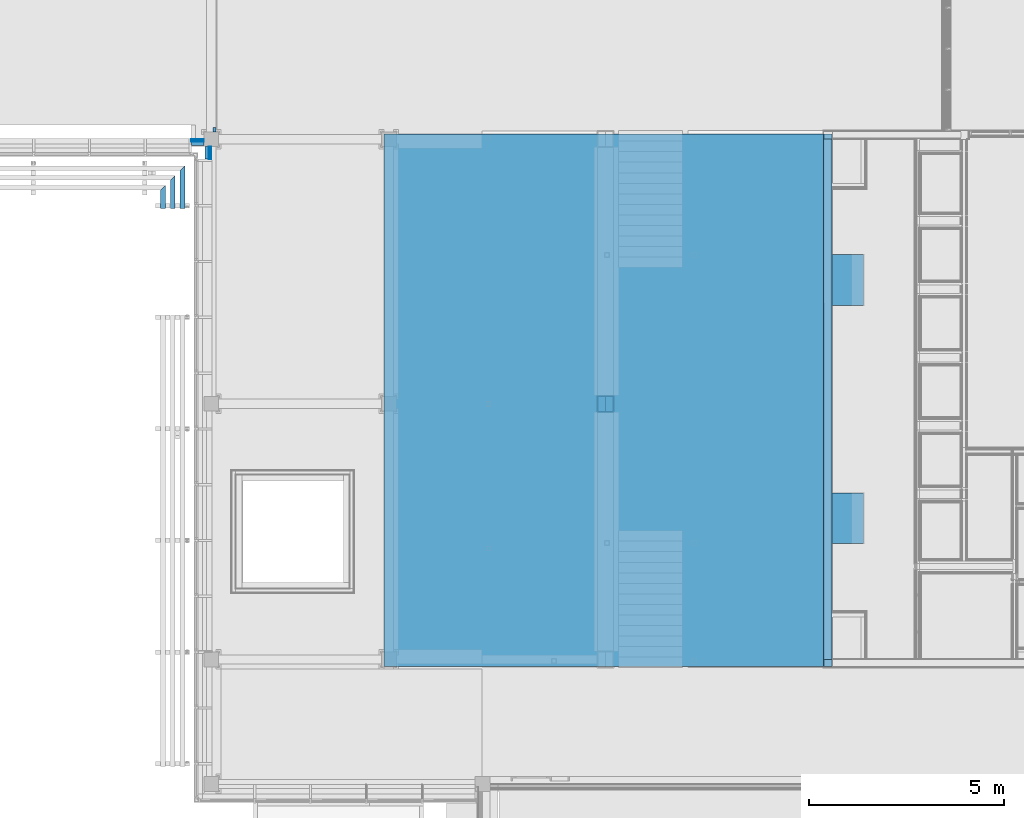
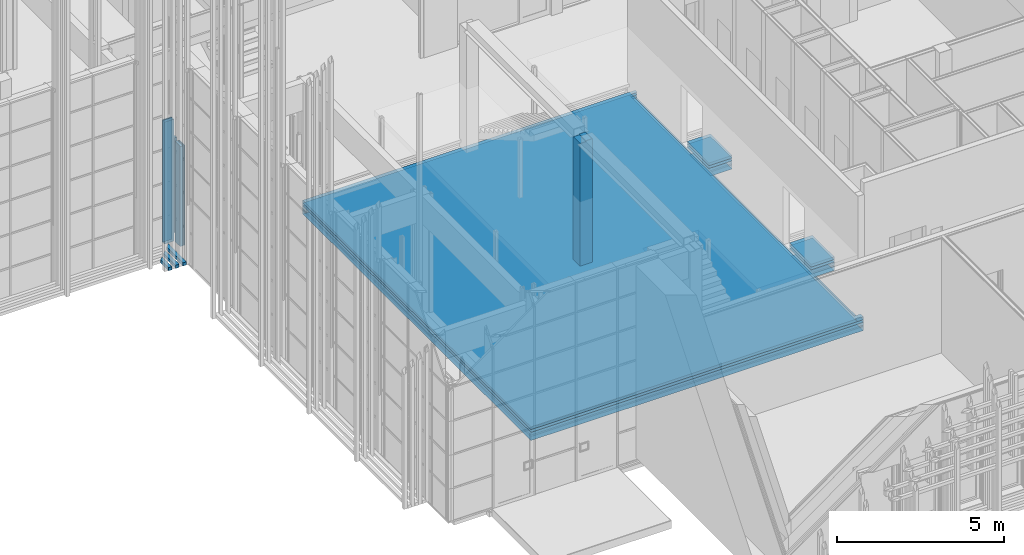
# One storey, part 142 of 260: 20 building element parts, 2 discrete accessories, 4 elements without a shape of their own.
"""IFC2X3 building model written with IfcOpenShell, lengths in millimetres."""

from ifc_helpers import new_model, entity, si_unit, converted_unit, derived_unit, money_unit, direction, frame, origin_with_axes, place, context, subcontext, project, spatial, faceted_brep, material, material_list, type_object, element, aggregate, save


model = new_model("IFC2X3")

# Units and contexts
model_context = context("Model", 3, precision=0.01, world=origin_with_axes(), true_north=direction((0.0, 1.0)))
body_context = subcontext(model_context, "Body", "Model", "MODEL_VIEW")
ifc_project = project(units=[si_unit("LENGTHUNIT", "METRE", prefix="MILLI"), si_unit("AREAUNIT", "SQUARE_METRE"), si_unit("VOLUMEUNIT", "CUBIC_METRE"), converted_unit("PLANEANGLEUNIT", "DEGREE", entity("IfcPlaneAngleMeasure", 0.0174532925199), si_unit("PLANEANGLEUNIT", "RADIAN"), dimensions=[0, 0, 0, 0, 0, 0, 0]), money_unit("EUR"), converted_unit("TIMEUNIT", "Year", entity("IfcTimeMeasure", 31556926.0), si_unit("TIMEUNIT", "SECOND"), dimensions=[0, 0, 1, 0, 0, 0, 0]), si_unit("MASSUNIT", "GRAM", prefix="KILO"), si_unit("THERMODYNAMICTEMPERATUREUNIT", "DEGREE_CELSIUS"), si_unit("LUMINOUSINTENSITYUNIT", "LUMEN"), si_unit("ENERGYUNIT", "JOULE", prefix="MEGA"), derived_unit("THERMALCONDUCTANCEUNIT", [(si_unit("POWERUNIT", "WATT"), 1), (si_unit("LENGTHUNIT", "METRE"), -1), (si_unit("THERMODYNAMICTEMPERATUREUNIT", "KELVIN"), -1)]), derived_unit("SPECIFICHEATCAPACITYUNIT", [(si_unit("ENERGYUNIT", "JOULE"), 1), (si_unit("MASSUNIT", "GRAM", prefix="KILO"), -1), (si_unit("THERMODYNAMICTEMPERATUREUNIT", "KELVIN"), -1)]), derived_unit("MASSDENSITYUNIT", [(si_unit("MASSUNIT", "GRAM", prefix="KILO"), 1), (si_unit("VOLUMEUNIT", "CUBIC_METRE"), -1)])], contexts=[model_context])

# Site, building, storey
site_placement = place(None, origin_with_axes())
site = spatial("IfcSite", under=ifc_project, at=site_placement, Name="Kolde pst 67a", CompositionType="ELEMENT")
building_placement = place(site_placement, origin_with_axes())
building = spatial("IfcBuilding", under=site, at=building_placement, Name="Riigigümnaasium", CompositionType="ELEMENT")
storey_placement = place(building_placement, origin_with_axes())
storey = spatial("IfcBuildingStorey", under=building, at=storey_placement, Name="1. korrus", CompositionType="ELEMENT", Elevation=0.0)

# Discrete accessories
ifc_material_1 = material(Name="_VÄLISVIIMISTLUS - sõrmjätkatud puitprussid 120x115mm, liitekohad vähemärgatavad, Platowood sõrmjätkatud kuusk või samaväärne; eeltöödeldud tuletõkkevõõbaga, tuletundlikkus B-s1, d0, Woodsafe Exterior WFX™ või samaväärne; kinnitused vastavalt EK osale")
ifc_material_list = material_list([ifc_material_1, ifc_material_1, ifc_material_1])
discrete_accessory_type_1 = type_object("IfcDiscreteAccessoryType", Name="120 1+paiksekaitse 3 tk  620 x 115")
discrete_accessory_1_placement = place(storey_placement, frame((47674.9160471, 23674.9995959, 352.5), z_axis=(0.0, 0.0, 1.0), x_axis=(-0.999999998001, -6.32316306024e-05, 0.0)))
element("IfcDiscreteAccessory", 1, at=discrete_accessory_1_placement, inside=storey, type_object=discrete_accessory_type_1, material=ifc_material_list, Name="Päikesevarjestus", context=body_context, shape_type="Brep", body=[
    faceted_brep([(625.0, 1217.76648665, 45.0), (625.0, 624.96048148, 45.0), (745.0, 744.952893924, 45.0), (745.0, 1217.76648665, 45.0), (625.0, 1217.76648665, -70.0), (625.0, 624.96048148, -70.0), (745.0, 744.952893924, -70.0), (745.0, 1217.76648665, -70.0)], [[[0, 1, 2, 3]], [[4, 5, 1, 0]], [[5, 6, 2, 1]], [[3, 2, 6, 7]], [[4, 0, 3, 7]], [[7, 6, 5, 4]]]),
    faceted_brep([(375.0, 1217.76648665, 45.0), (375.0, 374.976288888, 45.0), (495.0, 494.968701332, 45.0), (495.0, 1217.76648665, 45.0), (375.0, 1217.76648665, -70.0), (375.0, 374.976288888, -70.0), (495.0, 494.968701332, -70.0), (495.0, 1217.76648665, -70.0)], [[[0, 1, 2, 3]], [[4, 5, 1, 0]], [[5, 6, 2, 1]], [[3, 2, 6, 7]], [[4, 0, 3, 7]], [[7, 6, 5, 4]]]),
    faceted_brep([(125.0, 1217.76648665, 45.0), (125.0, 124.992096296, 45.0), (245.0, 244.98450874, 45.0), (245.0, 1217.76648665, 45.0), (125.0, 1217.76648665, -70.0), (125.0, 124.992096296, -70.0), (245.0, 244.98450874, -70.0), (245.0, 1217.76648665, -70.0)], [[[0, 1, 2, 3]], [[4, 5, 1, 0]], [[5, 6, 2, 1]], [[3, 2, 6, 7]], [[4, 0, 3, 7]], [[7, 6, 5, 4]]]),
])
ifc_material_2 = material(Name="_METALL - teras")
discrete_accessory_type_2 = type_object("IfcDiscreteAccessoryType", Name="_METALL - teras 74 x 105")
discrete_accessory_2_placement = place(storey_placement, frame((48312.9854607, 24472.4965341, 0.0), z_axis=(0.0, 0.0, 1.0), x_axis=(-1.0, 0.0, 0.0)))
element("IfcDiscreteAccessory", 2, at=discrete_accessory_2_placement, inside=storey, type_object=discrete_accessory_type_2, material=ifc_material_2, Name="Tuletõkke kardin", context=body_context, shape_type="Brep", body=[
    faceted_brep([(37.0, 52.5, 3470.0), (37.0, 52.5, 0.0), (-37.0, 52.5, 0.0), (-37.0, 52.5, 3470.0), (37.0, -52.5, 3470.0), (37.0, -52.5, 0.0), (-37.0, -52.5, 0.0), (-37.0, -52.5, 3470.0)], [[[0, 1, 2, 3]], [[4, 5, 1, 0]], [[2, 1, 5, 6]], [[3, 2, 6, 7]], [[4, 0, 3, 7]], [[7, 6, 5, 4]]]),
])

# Column, building element parts
column_type = type_object("IfcColumnType", Name="_KANDETARIND - raudbetoon C25/30 vastavalt EK osale 420 x 420", PredefinedType="COLUMN")
column_placement = place(storey_placement, frame((58329.9488767, 17449.9999742, -300.0), z_axis=(0.0, 0.0, 1.0), x_axis=(1.0, 0.0, 0.0)))
column = element("IfcColumn", 3, at=column_placement, inside=storey, type_object=column_type, Name="POST", ObjectType="COLUMN")
ifc_material_3 = material(Name="_VIIMISTLUSKIHT - puit")
building_element_part_1_placement = place(column_placement, origin_with_axes())
building_element_part_1 = element("IfcBuildingElementPart", 4, at=building_element_part_1_placement, material=ifc_material_3, Name="_VIIMISTLUSKIHT - puit", context=body_context, shape_type="Brep", body=[
    faceted_brep([(-210.0, 210.0, 4470.0), (0.0, 210.0, 4470.0), (3.24129629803e-05, 210.0, 4500.0), (210.0, 210.0, 4500.0), (210.0, 210.0, 0.0), (-210.0, 210.0, 0.0), (-210.0, -210.0, 4470.0), (0.0, -210.0, 4470.0), (0.0, -199.999997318, 4470.0), (-199.999997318, -199.999997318, 4470.0), (-199.999997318, 199.999997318, 4470.0), (0.0, 199.999997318, 4470.0), (3.23664650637e-05, 199.999997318, 4500.0), (3.05063352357e-05, -199.999997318, 4500.0), (3.04598231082e-05, -210.0, 4500.0), (210.0, -210.0, 4500.0), (199.999997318, 199.999997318, 4500.0), (199.999997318, -199.999997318, 4500.0), (210.0, -210.0, 0.0), (-210.0, -210.0, 0.0), (-199.999997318, 199.999997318, 0.0), (-199.999997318, -199.999997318, 0.0), (199.999997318, -199.999997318, 0.0), (199.999997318, 199.999997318, 0.0)], [[[0, 1, 2, 3, 4, 5]], [[1, 0, 6, 7, 8, 9, 10, 11]], [[12, 2, 1, 11]], [[13, 14, 15, 3, 2, 12, 16, 17]], [[15, 18, 4, 3]], [[19, 5, 4, 18], [20, 21, 22, 23]], [[6, 0, 5, 19]], [[7, 6, 19, 18, 15, 14]], [[14, 13, 8, 7]], [[8, 13, 17, 22, 21, 9]], [[10, 9, 21, 20]], [[11, 10, 20, 23, 16, 12]], [[16, 23, 22, 17]]]),
])
ifc_material_4 = material(Name="_KANDETARIND - raudbetoon C25/30 vastavalt EK osale")
building_element_part_2_placement = place(column_placement, origin_with_axes())
building_element_part_2 = element("IfcBuildingElementPart", 5, at=building_element_part_2_placement, material=ifc_material_4, Name="_KANDETARIND - raudbetoon C25/30 vastavalt EK osale", context=body_context, shape_type="Brep", body=[
    faceted_brep([(-200.0, 200.0, 4470.0), (0.0, 200.0, 4470.0), (3.23664650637e-05, 200.0, 4500.0), (200.0, 200.0, 4500.0), (200.0, 200.0, 0.0), (-200.0, 200.0, 0.0), (-200.0, -200.0, 4470.0), (0.0, -200.0, 4470.0), (3.05063352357e-05, -200.0, 4500.0), (200.0, -200.0, 4500.0), (200.0, -200.0, 0.0), (-200.0, -200.0, 0.0)], [[[0, 1, 2, 3, 4, 5]], [[1, 0, 6, 7]], [[8, 2, 1, 7]], [[2, 8, 9, 3]], [[9, 10, 4, 3]], [[10, 11, 5, 4]], [[6, 0, 5, 11]], [[7, 6, 11, 10, 9, 8]]]),
])
aggregate(column, [building_element_part_1, building_element_part_2])

# Slab, building element parts
slab_type = type_object("IfcSlabType", Name="PP-RBM-10/1_EPS 200 500", PredefinedType="NOTDEFINED")
slab_placement = place(storey_placement, frame((64129.5378572, 24360.3020039, -300.0), z_axis=(0.0, 0.0, 1.0), x_axis=(1.0, 0.0, 0.0)))
slab = element("IfcSlab", 6, at=slab_placement, inside=storey, type_object=slab_type, Name="Põrand pinnasel", PredefinedType="NOTDEFINED")
ifc_material_5 = material(Name="_PEALEVALUKIHT - raudbetoonplaat vastavalt EK osale, vajadusel põrandküte")
building_element_part_3_placement = place(slab_placement, origin_with_axes())
building_element_part_3 = element("IfcBuildingElementPart", 7, at=building_element_part_3_placement, material=ifc_material_5, Name="_PEALEVALUKIHT - raudbetoonplaat vastavalt EK osale, vajadusel põrandküte", context=body_context, shape_type="Brep", body=[
    faceted_brep([(-209.588296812, -13635.2990086, -100.0), (-209.588296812, -13635.2990086, 0.0), (-11469.543754, -13635.2990086, 0.0), (-11469.543754, -13635.2990086, -100.0), (-209.682895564, -10490.3466835, 0.0), (-209.998440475, 0.0, -100.0), (-209.998440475, 0.0, 0.0), (-209.905485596, -3090.30146363, 0.0), (-209.86638347, -4390.25861855, 0.0), (-209.721998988, -9190.34638203, 0.0), (-11469.543754, 0.0, 0.0), (-11469.543754, 0.0, -100.0)], [[[0, 1, 2, 3]], [[4, 1, 0, 5, 6, 7, 8, 9]], [[7, 6, 10, 2, 1, 4, 9, 8]], [[2, 10, 11, 3]], [[5, 0, 3, 11]], [[6, 5, 11, 10]]]),
    faceted_brep([(0.0, -13460.3400753, -100.0), (0.0, -13460.3400753, 0.0), (0.0, -13635.2990086, 0.0), (0.0, -13635.2990086, -100.0), (-199.593559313, -13460.346079, 0.0), (-199.593559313, -13460.346079, -100.0), (-199.588296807, -13635.2990086, 0.0), (-199.588296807, -13635.2990086, -100.0)], [[[0, 1, 2, 3]], [[4, 1, 0, 5]], [[1, 4, 6, 2]], [[2, 6, 7, 3]], [[5, 0, 3, 7]], [[4, 5, 7, 6]]]),
    faceted_brep([(-199.994821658, -120.30804703, 0.0), (0.0051782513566, -120.30203112, 0.0), (0.0, 0.0, 0.0), (-199.99844047, 0.0, 0.0), (0.0051782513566, -120.30203112, -100.0), (-199.994821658, -120.30804703, -100.0), (0.0, 0.0, -100.0), (-199.99844047, 0.0, -100.0)], [[[0, 1, 2, 3]], [[4, 1, 0, 5]], [[1, 4, 6, 2]], [[6, 7, 3, 2]], [[5, 0, 3, 7]], [[4, 5, 7, 6]]]),
    faceted_brep([(10.0945143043, -3090.29484613, 0.0), (10.1336164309, -4390.25200105, 0.0), (810.356886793, -4390.22784409, 0.0), (810.317680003, -3090.27069554, 0.0), (10.1336164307, -4390.25199374, -100.0), (10.0945143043, -3090.29484617, -100.0), (810.356886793, -4390.22784409, -100.0), (810.317680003, -3090.27069554, -100.0)], [[[0, 1, 2, 3]], [[4, 1, 0, 5]], [[1, 4, 6, 2]], [[6, 7, 3, 2]], [[5, 0, 3, 7]], [[4, 5, 7, 6]]]),
    faceted_brep([(10.2780009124, -9190.33976453, 0.0), (10.3171043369, -10490.340066, 0.0), (810.450246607, -10490.3159238, 0.0), (810.411038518, -9190.31567706, 0.0), (10.3171043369, -10490.340066, -100.0), (10.2780009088, -9190.33964401, -100.0), (810.450246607, -10490.3159238, -100.0), (810.411038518, -9190.31567706, -100.0)], [[[0, 1, 2, 3]], [[4, 1, 0, 5]], [[1, 4, 6, 2]], [[6, 7, 3, 2]], [[5, 0, 3, 7]], [[4, 5, 7, 6]]]),
])
ifc_material_6 = material(Name="_ERALDUSKIHT - polüetüleenkile 0,2mm, vuugid ülekattega 200mm ja teibitud")
building_element_part_4_placement = place(slab_placement, origin_with_axes())
building_element_part_4 = element("IfcBuildingElementPart", 8, at=building_element_part_4_placement, material=ifc_material_6, Name="_ERALDUSKIHT - polüetüleenkile 0,2mm, vuugid ülekattega 200mm ja teibitud", context=body_context, shape_type="Brep", body=[
    faceted_brep([(-209.588296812, -13635.2990086, -100.1), (-209.588296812, -13635.2990086, -100.0), (-11469.543754, -13635.2990086, -100.0), (-11469.543754, -13635.2990086, -100.1), (-209.998440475, 0.0, -100.0), (-209.998440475, 0.0, -100.1), (-11469.543754, 0.0, -100.0), (-11469.543754, 0.0, -100.1)], [[[0, 1, 2, 3]], [[4, 1, 0, 5]], [[1, 4, 6, 2]], [[2, 6, 7, 3]], [[5, 0, 3, 7]], [[4, 5, 7, 6]]]),
    faceted_brep([(0.0, -13460.3400753, -100.1), (0.0, -13460.3400753, -100.0), (0.0, -13635.2990086, -100.0), (0.0, -13635.2990086, -100.1), (-199.593559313, -13460.346079, -100.0), (-199.593559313, -13460.346079, -100.1), (-199.588296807, -13635.2990086, -100.0), (-199.588296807, -13635.2990086, -100.1)], [[[0, 1, 2, 3]], [[4, 1, 0, 5]], [[1, 4, 6, 2]], [[2, 6, 7, 3]], [[5, 0, 3, 7]], [[4, 5, 7, 6]]]),
    faceted_brep([(-199.994821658, -120.30804703, -100.0), (0.0051782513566, -120.30203112, -100.0), (0.0, 0.0, -100.0), (-199.99844047, 0.0, -100.0), (0.0051782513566, -120.30203112, -100.1), (-199.994821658, -120.30804703, -100.1), (0.0, 0.0, -100.1), (-199.99844047, 0.0, -100.1)], [[[0, 1, 2, 3]], [[4, 1, 0, 5]], [[1, 4, 6, 2]], [[6, 7, 3, 2]], [[5, 0, 3, 7]], [[4, 5, 7, 6]]]),
    faceted_brep([(10.0945143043, -3090.29484617, -100.0), (10.1336164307, -4390.25199374, -100.0), (810.356886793, -4390.22784409, -100.0), (810.317680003, -3090.27069554, -100.0), (10.1336164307, -4390.25199374, -100.1), (10.0945143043, -3090.29484617, -100.1), (810.356886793, -4390.22784409, -100.1), (810.317680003, -3090.27069554, -100.1)], [[[0, 1, 2, 3]], [[4, 1, 0, 5]], [[1, 4, 6, 2]], [[6, 7, 3, 2]], [[5, 0, 3, 7]], [[4, 5, 7, 6]]]),
    faceted_brep([(10.2780009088, -9190.33964401, -100.0), (10.3171043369, -10490.340066, -100.0), (810.450246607, -10490.3159238, -100.0), (810.411038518, -9190.31567706, -100.0), (10.3171043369, -10490.340066, -100.1), (10.2780009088, -9190.33964401, -100.1), (810.450246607, -10490.3159238, -100.1), (810.411038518, -9190.31567706, -100.1)], [[[0, 1, 2, 3]], [[4, 1, 0, 5]], [[1, 4, 6, 2]], [[6, 7, 3, 2]], [[5, 0, 3, 7]], [[4, 5, 7, 6]]]),
])
ifc_material_7 = material(Name="_SOOJUSTUS - vahtpolüstüreenplaadid EPS 120 Perimeeter, survetugevus min 120kPa, veeimavus <2%, soojuserijuhtivus λD<0,036 W/(mK)")
building_element_part_5_placement = place(slab_placement, origin_with_axes())
building_element_part_5 = element("IfcBuildingElementPart", 9, at=building_element_part_5_placement, material=ifc_material_7, Name="_SOOJUSTUS - vahtpolüstüreenplaadid EPS 120 Perimeeter, survetugevus min 120kPa, veeimavus <2%, soojuserijuhtivus λD<0,036 W/(mK)", context=body_context, shape_type="Brep", body=[
    faceted_brep([(-209.588296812, -13635.2990086, -200.1), (-209.588296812, -13635.2990086, -100.1), (-11469.543754, -13635.2990086, -100.1), (-11469.543754, -13635.2990086, -200.1), (-209.998440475, 0.0, -100.1), (-209.998440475, 0.0, -200.1), (-11469.543754, 0.0, -100.1), (-11469.543754, 0.0, -200.1)], [[[0, 1, 2, 3]], [[4, 1, 0, 5]], [[1, 4, 6, 2]], [[2, 6, 7, 3]], [[5, 0, 3, 7]], [[4, 5, 7, 6]]]),
    faceted_brep([(0.0, -13460.3400753, -200.1), (0.0, -13460.3400753, -100.1), (0.0, -13635.2990086, -100.1), (0.0, -13635.2990086, -200.1), (-199.593559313, -13460.346079, -100.1), (-199.593559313, -13460.346079, -200.1), (-199.588296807, -13635.2990086, -100.1), (-199.588296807, -13635.2990086, -200.1)], [[[0, 1, 2, 3]], [[4, 1, 0, 5]], [[1, 4, 6, 2]], [[2, 6, 7, 3]], [[5, 0, 3, 7]], [[4, 5, 7, 6]]]),
    faceted_brep([(-199.994821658, -120.30804703, -100.1), (0.0051782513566, -120.30203112, -100.1), (0.0, 0.0, -100.1), (-199.99844047, 0.0, -100.1), (0.0051782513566, -120.30203112, -200.1), (-199.994821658, -120.30804703, -200.1), (0.0, 0.0, -200.1), (-199.99844047, 0.0, -200.1)], [[[0, 1, 2, 3]], [[4, 1, 0, 5]], [[1, 4, 6, 2]], [[6, 7, 3, 2]], [[5, 0, 3, 7]], [[4, 5, 7, 6]]]),
    faceted_brep([(10.0945143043, -3090.29484617, -100.1), (10.1336164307, -4390.25199374, -100.1), (810.356886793, -4390.22784409, -100.1), (810.317680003, -3090.27069554, -100.1), (10.1336164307, -4390.25199374, -200.1), (10.0945143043, -3090.29484617, -200.1), (810.356886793, -4390.22784409, -200.1), (810.317680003, -3090.27069554, -200.1)], [[[0, 1, 2, 3]], [[4, 1, 0, 5]], [[1, 4, 6, 2]], [[6, 7, 3, 2]], [[5, 0, 3, 7]], [[4, 5, 7, 6]]]),
    faceted_brep([(10.2780009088, -9190.33964401, -100.1), (10.3171043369, -10490.340066, -100.1), (810.450246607, -10490.3159238, -100.1), (810.411038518, -9190.31567706, -100.1), (10.3171043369, -10490.340066, -200.1), (10.2780009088, -9190.33964401, -200.1), (810.450246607, -10490.3159238, -200.1), (810.411038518, -9190.31567706, -200.1)], [[[0, 1, 2, 3]], [[4, 1, 0, 5]], [[1, 4, 6, 2]], [[6, 7, 3, 2]], [[5, 0, 3, 7]], [[4, 5, 7, 6]]]),
])
ifc_material_8 = material(Name="_ERALDUSKIHT - radoonitõkkekile/-membraan LEKU 280g/m² või samaväärne")
building_element_part_6_placement = place(slab_placement, origin_with_axes())
building_element_part_6 = element("IfcBuildingElementPart", 10, at=building_element_part_6_placement, material=ifc_material_8, Name="_ERALDUSKIHT - radoonitõkkekile/-membraan LEKU 280g/m² või samaväärne", context=body_context, shape_type="Brep", body=[
    faceted_brep([(-209.588296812, -13635.2990086, -200.2), (-209.588296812, -13635.2990086, -200.1), (-11469.543754, -13635.2990086, -200.1), (-11469.543754, -13635.2990086, -200.2), (-209.998440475, 0.0, -200.1), (-209.998440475, 0.0, -200.2), (-11469.543754, 0.0, -200.1), (-11469.543754, 0.0, -200.2)], [[[0, 1, 2, 3]], [[4, 1, 0, 5]], [[1, 4, 6, 2]], [[2, 6, 7, 3]], [[5, 0, 3, 7]], [[4, 5, 7, 6]]]),
    faceted_brep([(0.0, -13460.3400753, -200.2), (0.0, -13460.3400753, -200.1), (0.0, -13635.2990086, -200.1), (0.0, -13635.2990086, -200.2), (-199.593559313, -13460.346079, -200.1), (-199.593559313, -13460.346079, -200.2), (-199.588296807, -13635.2990086, -200.1), (-199.588296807, -13635.2990086, -200.2)], [[[0, 1, 2, 3]], [[4, 1, 0, 5]], [[1, 4, 6, 2]], [[2, 6, 7, 3]], [[5, 0, 3, 7]], [[4, 5, 7, 6]]]),
    faceted_brep([(-199.994821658, -120.30804703, -200.1), (0.0051782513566, -120.30203112, -200.1), (0.0, 0.0, -200.1), (-199.99844047, 0.0, -200.1), (0.0051782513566, -120.30203112, -200.2), (-199.994821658, -120.30804703, -200.2), (0.0, 0.0, -200.2), (-199.99844047, 0.0, -200.2)], [[[0, 1, 2, 3]], [[4, 1, 0, 5]], [[1, 4, 6, 2]], [[6, 7, 3, 2]], [[5, 0, 3, 7]], [[4, 5, 7, 6]]]),
    faceted_brep([(10.0945143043, -3090.29484617, -200.1), (10.1336164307, -4390.25199374, -200.1), (810.356886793, -4390.22784409, -200.1), (810.317680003, -3090.27069554, -200.1), (10.1336164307, -4390.25199374, -200.2), (10.0945143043, -3090.29484617, -200.2), (810.356886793, -4390.22784409, -200.2), (810.317680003, -3090.27069554, -200.2)], [[[0, 1, 2, 3]], [[4, 1, 0, 5]], [[1, 4, 6, 2]], [[6, 7, 3, 2]], [[5, 0, 3, 7]], [[4, 5, 7, 6]]]),
    faceted_brep([(10.2780009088, -9190.33964401, -200.1), (10.3171043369, -10490.340066, -200.1), (810.450246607, -10490.3159238, -200.1), (810.411038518, -9190.31567706, -200.1), (10.3171043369, -10490.340066, -200.2), (10.2780009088, -9190.33964401, -200.2), (810.450246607, -10490.3159238, -200.2), (810.411038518, -9190.31567706, -200.2)], [[[0, 1, 2, 3]], [[4, 1, 0, 5]], [[1, 4, 6, 2]], [[6, 7, 3, 2]], [[5, 0, 3, 7]], [[4, 5, 7, 6]]]),
])
building_element_part_7_placement = place(slab_placement, origin_with_axes())
building_element_part_7 = element("IfcBuildingElementPart", 11, at=building_element_part_7_placement, material=ifc_material_7, Name="_SOOJUSTUS - vahtpolüstüreenplaadid EPS 120 Perimeeter, survetugevus min 120kPa, veeimavus <2%, soojuserijuhtivus λD<0,036 W/(mK)", context=body_context, shape_type="Brep", body=[
    faceted_brep([(0.0945143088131, -3090.29514797, -220.0), (10.0945143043, -3090.29484623, -220.0), (10.0945143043, -3090.29484617, -200.2), (810.317680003, -3090.27069554, -200.2), (810.317680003, -3090.27069554, -300.2), (0.0, -3090.29515081, -300.2), (10.3171043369, -10490.340066, -220.0), (10.2780009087, -9190.33964176, -220.0), (0.0, -9190.33995188, -220.0), (0.0, -4390.25229955, -220.0), (10.1336164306, -4390.25198901, -220.0), (0.0051782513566, -120.30203112, -220.0), (-199.994821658, -120.30804703, -220.0), (-199.99844047, 0.0, -220.0), (-209.998440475, 0.0, -220.0), (-209.588296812, -13635.2990086, -220.0), (-199.588296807, -13635.2990086, -220.0), (-199.593559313, -13460.346079, -220.0), (0.0, -13460.3400753, -220.0), (0.0, -10490.3403773, -220.0), (10.1336164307, -4390.25199374, -200.2), (810.356886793, -4390.22784409, -200.2), (810.356886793, -4390.22784409, -300.2), (810.450246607, -10490.3159238, -300.2), (0.0, -10490.3403773, -300.2), (0.0, -13635.2990086, -300.2), (-11469.543754, -13635.2990086, -300.2), (-11469.543754, 0.0, -300.2), (0.0, 0.0, -300.2), (0.0, -4390.25229955, -300.2), (0.0, -9190.33995188, -300.2), (810.411038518, -9190.31567706, -300.2), (0.0051782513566, -120.30203112, -200.2), (0.0, 0.0, -200.2), (10.3171043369, -10490.340066, -200.2), (10.2780009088, -9190.33964401, -200.2), (810.411038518, -9190.31567706, -200.2), (-199.994821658, -120.30804703, -200.2), (-199.99844047, 0.0, -200.2), (-209.998440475, 0.0, -200.2), (-11469.543754, 0.0, -200.2), (-209.588296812, -13635.2990086, -200.2), (-199.588296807, -13635.2990086, -200.2), (-11469.543754, -13635.2990086, -200.2), (0.0, -13635.2990086, -200.2), (-199.593559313, -13460.346079, -200.2), (0.0, -13460.3400753, -200.2), (810.450246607, -10490.3159238, -200.2)], [[[0, 1, 2, 3, 4, 5]], [[6, 7, 8, 9, 10, 1, 0, 11, 12, 13, 14, 15, 16, 17, 18, 19]], [[20, 2, 1, 10]], [[2, 20, 21, 3]], [[22, 4, 3, 21]], [[23, 24, 25, 26, 27, 28, 5, 4, 22, 29, 30, 31]], [[32, 11, 0, 5, 28, 33]], [[34, 35, 7, 6]], [[7, 35, 36, 31, 30, 8]], [[29, 9, 8, 30]], [[10, 9, 29, 22, 21, 20]], [[12, 11, 32, 37]], [[13, 12, 37, 38]], [[39, 14, 13, 38, 33, 28, 27, 40]], [[15, 14, 39, 41]], [[42, 16, 15, 41, 43, 26, 25, 44]], [[42, 45, 17, 16]], [[17, 45, 46, 18]], [[19, 18, 46, 44, 25, 24]], [[6, 19, 24, 23, 47, 34]], [[27, 26, 43, 40]], [[23, 31, 36, 47]], [[38, 37, 32, 33]], [[35, 34, 47, 36]], [[40, 43, 41, 39]], [[44, 46, 45, 42]]]),
])
ifc_material_9 = material(Name="_TÄIDE - tasandus-/tugevduskiht, pinnasesse tambitud killustik E=80MPa, kiilutud fr 4/16")
building_element_part_8_placement = place(slab_placement, origin_with_axes())
building_element_part_8 = element("IfcBuildingElementPart", 12, at=building_element_part_8_placement, material=ifc_material_9, Name="_TÄIDE - tasandus-/tugevduskiht, pinnasesse tambitud killustik E=80MPa, kiilutud fr 4/16", context=body_context, shape_type="Brep", body=[
    faceted_brep([(-11469.543754, 0.0, -350.2), (-11469.543754, 0.0, -300.2), (0.0, 0.0, -300.2), (0.0, 0.0, -350.2), (-11469.543754, -13635.2990086, -350.2), (-11469.543754, -13635.2990086, -300.2), (0.0, -13635.2990086, -300.2), (0.0, -10490.3403773, -300.2), (810.450246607, -10490.3159238, -300.2), (810.411038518, -9190.31567706, -300.2), (0.0, -9190.33995188, -300.2), (0.0, -4390.25229955, -300.2), (810.356886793, -4390.22784409, -300.2), (810.317680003, -3090.27069554, -300.2), (0.0, -3090.29515081, -300.2), (0.0, -3090.29515081, -350.2), (810.317680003, -3090.27069554, -350.2), (810.356886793, -4390.22784409, -350.2), (0.0, -4390.25229955, -350.2), (0.0, -9190.33995188, -350.2), (810.411038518, -9190.31567706, -350.2), (810.450246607, -10490.3159238, -350.2), (0.0, -10490.3403773, -350.2), (0.0, -13635.2990086, -350.2)], [[[0, 1, 2, 3]], [[4, 5, 1, 0]], [[2, 1, 5, 6, 7, 8, 9, 10, 11, 12, 13, 14]], [[3, 2, 14, 15]], [[3, 15, 16, 17, 18, 19, 20, 21, 22, 23, 4, 0]], [[23, 6, 5, 4]], [[22, 7, 6, 23]], [[21, 8, 7, 22]], [[20, 9, 8, 21]], [[19, 10, 9, 20]], [[18, 11, 10, 19]], [[17, 12, 11, 18]], [[16, 13, 12, 17]], [[15, 14, 13, 16]]]),
])
ifc_material_10 = material(Name="_TÄIDE - tasandus-/tugevduskiht, pinnasesse tambitud killustik E=80MPa, fr 16/32")
building_element_part_9_placement = place(slab_placement, origin_with_axes())
building_element_part_9 = element("IfcBuildingElementPart", 13, at=building_element_part_9_placement, material=ifc_material_10, Name="_TÄIDE - tasandus-/tugevduskiht, pinnasesse tambitud killustik E=80MPa, fr 16/32", context=body_context, shape_type="Brep", body=[
    faceted_brep([(-11469.543754, 0.0, -500.2), (-11469.543754, 0.0, -350.2), (0.0, 0.0, -350.2), (0.0, 0.0, -500.2), (-11469.543754, -13635.2990086, -500.2), (-11469.543754, -13635.2990086, -350.2), (0.0, -13635.2990086, -350.2), (0.0, -10490.3403773, -350.2), (810.450246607, -10490.3159238, -350.2), (810.411038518, -9190.31567706, -350.2), (0.0, -9190.33995188, -350.2), (0.0, -4390.25229955, -350.2), (810.356886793, -4390.22784409, -350.2), (810.317680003, -3090.27069554, -350.2), (0.0, -3090.29515081, -350.2), (0.0, -3090.29515081, -500.2), (810.317680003, -3090.27069554, -500.2), (810.356886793, -4390.22784409, -500.2), (0.0, -4390.25229955, -500.2), (0.0, -9190.33995188, -500.2), (810.411038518, -9190.31567706, -500.2), (810.450246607, -10490.3159238, -500.2), (0.0, -10490.3403773, -500.2), (0.0, -13635.2990086, -500.2)], [[[0, 1, 2, 3]], [[4, 5, 1, 0]], [[2, 1, 5, 6, 7, 8, 9, 10, 11, 12, 13, 14]], [[3, 2, 14, 15]], [[3, 15, 16, 17, 18, 19, 20, 21, 22, 23, 4, 0]], [[23, 6, 5, 4]], [[22, 7, 6, 23]], [[21, 8, 7, 22]], [[20, 9, 8, 21]], [[19, 10, 9, 20]], [[18, 11, 10, 19]], [[17, 12, 11, 18]], [[16, 13, 12, 17]], [[15, 14, 13, 16]]]),
])
ifc_material_11 = material(Name="_PINNAS - tihendatud mineraalne tagasitäide või olemasolev pinnas, tihendusaste 92%, Emax/E1 <2.8 (vastavalt MaaRYL2010 klassile 2)")
building_element_part_10_placement = place(slab_placement, origin_with_axes())
building_element_part_10 = element("IfcBuildingElementPart", 14, at=building_element_part_10_placement, material=ifc_material_11, Name="_PINNAS - tihendatud mineraalne tagasitäide või olemasolev pinnas, tihendusaste 92%, Emax/E1 <2.8 (vastavalt MaaRYL2010 klassile 2)", context=body_context, shape_type="Brep", body=[
    faceted_brep([(0.0, 0.0, -500.3), (-11469.543754, 0.0, -500.3), (-11469.543754, 0.0, -500.2), (0.0, 0.0, -500.2), (0.0, -3090.29515081, -500.3), (810.317680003, -3090.27069554, -500.3), (810.356886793, -4390.22784409, -500.3), (0.0, -4390.25229955, -500.3), (0.0, -9190.33995188, -500.3), (810.411038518, -9190.31567706, -500.3), (810.450246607, -10490.3159238, -500.3), (0.0, -10490.3403773, -500.3), (0.0, -13635.2990086, -500.3), (-11469.543754, -13635.2990086, -500.3), (-11469.543754, -13635.2990086, -500.2), (0.0, -13635.2990086, -500.2), (0.0, -10490.3403773, -500.2), (810.450246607, -10490.3159238, -500.2), (810.411038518, -9190.31567706, -500.2), (0.0, -9190.33995188, -500.2), (0.0, -4390.25229955, -500.2), (810.356886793, -4390.22784409, -500.2), (810.317680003, -3090.27069554, -500.2), (0.0, -3090.29515081, -500.2)], [[[0, 1, 2, 3]], [[0, 4, 5, 6, 7, 8, 9, 10, 11, 12, 13, 1]], [[1, 13, 14, 2]], [[3, 2, 14, 15, 16, 17, 18, 19, 20, 21, 22, 23]], [[4, 0, 3, 23]], [[5, 4, 23, 22]], [[6, 5, 22, 21]], [[7, 6, 21, 20]], [[8, 7, 20, 19]], [[9, 8, 19, 18]], [[10, 9, 18, 17]], [[11, 10, 17, 16]], [[12, 11, 16, 15]], [[13, 12, 15, 14]]]),
])
aggregate(slab, [building_element_part_3, building_element_part_4, building_element_part_5, building_element_part_6, building_element_part_7, building_element_part_8, building_element_part_9, building_element_part_10])

# Wall, building element parts
wall_type = type_object("IfcWallType", Name="SS-MK-10/4_šahti sein+dold  160", PredefinedType="NOTDEFINED")
wall_1_placement = place(storey_placement, frame((48164.9854624, 24039.9965348, 0.0), z_axis=(0.0, 0.0, 1.0), x_axis=(0.0, -1.0, 0.0)))
wall_1 = element("IfcWall", 15, at=wall_1_placement, inside=storey, type_object=wall_type, Name="Sisesein")
ifc_material_12 = material(Name="_VIIMISTLUSKIHT - Dold plaat vastavalt SA osale")
building_element_part_11_placement = place(wall_1_placement, origin_with_axes())
building_element_part_11 = element("IfcBuildingElementPart", 16, at=building_element_part_11_placement, material=ifc_material_12, Name="_VIIMISTLUSKIHT - Dold plaat vastavalt SA osale", context=body_context, shape_type="Brep", body=[
    faceted_brep([(319.797862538, 40.0, 3650.0), (319.797862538, 60.0, 3650.0), (0.0, 60.0, 3650.0), (0.0, 40.0, 3650.0), (319.797862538, 40.0, 0.0), (319.797862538, 60.0, 0.0), (0.0, 60.0, 0.0), (0.0, 40.0, 0.0)], [[[0, 1, 2, 3]], [[0, 4, 5, 1]], [[1, 5, 6, 2]], [[3, 2, 6, 7]], [[4, 0, 3, 7]], [[5, 4, 7, 6]]]),
])
ifc_material_13 = material(Name="_KARKASS - eriprofiilkinnitus vastavalt sisemisele plaatviimistlusele")
building_element_part_12_placement = place(wall_1_placement, origin_with_axes())
building_element_part_12 = element("IfcBuildingElementPart", 17, at=building_element_part_12_placement, material=ifc_material_13, Name="_KARKASS - eriprofiilkinnitus vastavalt sisemisele plaatviimistlusele", context=body_context, shape_type="Brep", body=[
    faceted_brep([(319.797862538, 30.0, 3650.0), (319.797862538, 40.0, 3650.0), (0.0, 40.0, 3650.0), (0.0, 30.0, 3650.0), (319.797862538, 30.0, 0.0), (319.797862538, 40.0, 0.0), (0.0, 40.0, 0.0), (0.0, 30.0, 0.0)], [[[0, 1, 2, 3]], [[0, 4, 5, 1]], [[1, 5, 6, 2]], [[3, 2, 6, 7]], [[4, 0, 3, 7]], [[5, 4, 7, 6]]]),
])
ifc_material_14 = material(Name="_PLAATMATERJAL - tuletõkkekipsplaat, Knauf Red GKF või samaväärne")
building_element_part_13_placement = place(wall_1_placement, origin_with_axes())
building_element_part_13 = element("IfcBuildingElementPart", 18, at=building_element_part_13_placement, material=ifc_material_14, Name="_PLAATMATERJAL - tuletõkkekipsplaat, Knauf Red GKF või samaväärne", context=body_context, shape_type="Brep", body=[
    faceted_brep([(319.797862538, 15.0, 3650.0), (319.797862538, 30.0, 3650.0), (0.0, 30.0, 3650.0), (0.0, 15.0, 3650.0), (319.797862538, 15.0, 0.0), (319.797862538, 30.0, 0.0), (0.0, 30.0, 0.0), (0.0, 15.0, 0.0)], [[[0, 1, 2, 3]], [[0, 4, 5, 1]], [[1, 5, 6, 2]], [[3, 2, 6, 7]], [[4, 0, 3, 7]], [[5, 4, 7, 6]]]),
])
building_element_part_14_placement = place(wall_1_placement, origin_with_axes())
building_element_part_14 = element("IfcBuildingElementPart", 19, at=building_element_part_14_placement, material=ifc_material_14, Name="_PLAATMATERJAL - tuletõkkekipsplaat, Knauf Red GKF või samaväärne", context=body_context, shape_type="Brep", body=[
    faceted_brep([(319.797862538, 0.0, 3650.0), (319.797862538, 15.0, 3650.0), (0.0, 15.0, 3650.0), (0.0, 0.0, 3650.0), (319.797862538, 0.0, 0.0), (319.797862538, 15.0, 0.0), (0.0, 15.0, 0.0), (0.0, 0.0, 0.0)], [[[0, 1, 2, 3]], [[0, 4, 5, 1]], [[1, 5, 6, 2]], [[3, 2, 6, 7]], [[4, 0, 3, 7]], [[5, 4, 7, 6]]]),
])
ifc_material_15 = material(Name="_KARKASS - metallkarkass CW 100/50/06 ja UW 100/40/06, samm 600, vahel mineraalvill, helineeldetegur αw = 1.0,  ISOVER ACOUSTIC 100mm või samaväärne")
building_element_part_15_placement = place(wall_1_placement, origin_with_axes())
building_element_part_15 = element("IfcBuildingElementPart", 20, at=building_element_part_15_placement, material=ifc_material_15, Name="_KARKASS - metallkarkass CW 100/50/06 ja UW 100/40/06, samm 600, vahel mineraalvill, helineeldetegur αw = 1.0,  ISOVER ACOUSTIC 100mm või samaväärne", context=body_context, shape_type="Brep", body=[
    faceted_brep([(319.797862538, -100.0, 3650.0), (319.797862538, 0.0, 3650.0), (0.0, 0.0, 3650.0), (0.0, -100.0, 3650.0), (319.797862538, -100.0, 0.0), (319.797862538, 0.0, 0.0), (0.0, 0.0, 0.0), (0.0, -100.0, 0.0)], [[[0, 1, 2, 3]], [[0, 4, 5, 1]], [[1, 5, 6, 2]], [[3, 2, 6, 7]], [[4, 0, 3, 7]], [[5, 4, 7, 6]]]),
])
aggregate(wall_1, [building_element_part_11, building_element_part_12, building_element_part_13, building_element_part_14, building_element_part_15])

wall_2_placement = place(storey_placement, frame((48040.0511649, 24165.2703963, 0.0), z_axis=(0.0, 0.0, 1.0), x_axis=(-1.0, 0.0, 0.0)))
wall_2 = element("IfcWall", 21, at=wall_2_placement, inside=storey, type_object=wall_type, Name="Sisesein")
building_element_part_16_placement = place(wall_2_placement, origin_with_axes())
building_element_part_16 = element("IfcBuildingElementPart", 22, at=building_element_part_16_placement, material=ifc_material_15, Name="_KARKASS - metallkarkass CW 100/50/06 ja UW 100/40/06, samm 600, vahel mineraalvill, helineeldetegur αw = 1.0,  ISOVER ACOUSTIC 100mm või samaväärne", context=body_context, shape_type="Brep", body=[
    faceted_brep([(320.6281551, 100.0, 0.0), (320.6281551, 0.0, 0.0), (0.0, 0.0, 0.0), (0.0, 100.0, 0.0), (320.6281551, 100.0, 4450.0), (320.6281551, 0.0, 4450.0), (0.0, 0.0, 4450.0), (0.0, 100.0, 4450.0)], [[[0, 1, 2, 3]], [[0, 4, 5, 1]], [[1, 5, 6, 2]], [[3, 2, 6, 7]], [[4, 0, 3, 7]], [[5, 4, 7, 6]]]),
])
building_element_part_17_placement = place(wall_2_placement, origin_with_axes())
building_element_part_17 = element("IfcBuildingElementPart", 23, at=building_element_part_17_placement, material=ifc_material_14, Name="_PLAATMATERJAL - tuletõkkekipsplaat, Knauf Red GKF või samaväärne", context=body_context, shape_type="Brep", body=[
    faceted_brep([(320.6281551, 0.0, 0.0), (320.6281551, -15.0, 0.0), (0.0, -15.0, 0.0), (0.0, 0.0, 0.0), (320.6281551, 0.0, 4450.0), (320.6281551, -15.0, 4450.0), (0.0, -15.0, 4450.0), (0.0, 0.0, 4450.0)], [[[0, 1, 2, 3]], [[0, 4, 5, 1]], [[1, 5, 6, 2]], [[3, 2, 6, 7]], [[4, 0, 3, 7]], [[5, 4, 7, 6]]]),
])
building_element_part_18_placement = place(wall_2_placement, origin_with_axes())
building_element_part_18 = element("IfcBuildingElementPart", 24, at=building_element_part_18_placement, material=ifc_material_14, Name="_PLAATMATERJAL - tuletõkkekipsplaat, Knauf Red GKF või samaväärne", context=body_context, shape_type="Brep", body=[
    faceted_brep([(320.6281551, -15.0, 0.0), (320.6281551, -30.0, 0.0), (0.0, -30.0, 0.0), (0.0, -15.0, 0.0), (320.6281551, -15.0, 4450.0), (320.6281551, -30.0, 4450.0), (0.0, -30.0, 4450.0), (0.0, -15.0, 4450.0)], [[[0, 1, 2, 3]], [[0, 4, 5, 1]], [[1, 5, 6, 2]], [[3, 2, 6, 7]], [[4, 0, 3, 7]], [[5, 4, 7, 6]]]),
])
building_element_part_19_placement = place(wall_2_placement, origin_with_axes())
building_element_part_19 = element("IfcBuildingElementPart", 25, at=building_element_part_19_placement, material=ifc_material_13, Name="_KARKASS - eriprofiilkinnitus vastavalt sisemisele plaatviimistlusele", context=body_context, shape_type="Brep", body=[
    faceted_brep([(320.6281551, -30.0, 0.0), (320.6281551, -40.0, 0.0), (0.0, -40.0, 0.0), (0.0, -30.0, 0.0), (320.6281551, -30.0, 4450.0), (320.6281551, -40.0, 4450.0), (0.0, -40.0, 4450.0), (0.0, -30.0, 4450.0)], [[[0, 1, 2, 3]], [[0, 4, 5, 1]], [[1, 5, 6, 2]], [[3, 2, 6, 7]], [[4, 0, 3, 7]], [[5, 4, 7, 6]]]),
])
building_element_part_20_placement = place(wall_2_placement, origin_with_axes())
building_element_part_20 = element("IfcBuildingElementPart", 26, at=building_element_part_20_placement, material=ifc_material_12, Name="_VIIMISTLUSKIHT - Dold plaat vastavalt SA osale", context=body_context, shape_type="Brep", body=[
    faceted_brep([(320.6281551, -40.0, 0.0), (320.6281551, -60.0, 0.0), (0.0, -60.0, 0.0), (0.0, -40.0, 0.0), (320.6281551, -40.0, 4450.0), (320.6281551, -60.0, 4450.0), (0.0, -60.0, 4450.0), (0.0, -40.0, 4450.0)], [[[0, 1, 2, 3]], [[0, 4, 5, 1]], [[1, 5, 6, 2]], [[3, 2, 6, 7]], [[4, 0, 3, 7]], [[5, 4, 7, 6]]]),
])
aggregate(wall_2, [building_element_part_16, building_element_part_17, building_element_part_18, building_element_part_19, building_element_part_20])

save(model, "model.ifc")
